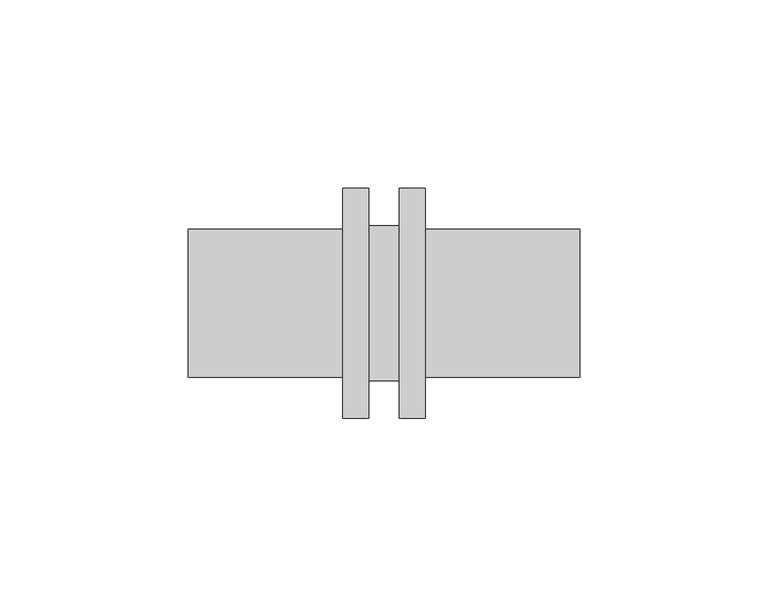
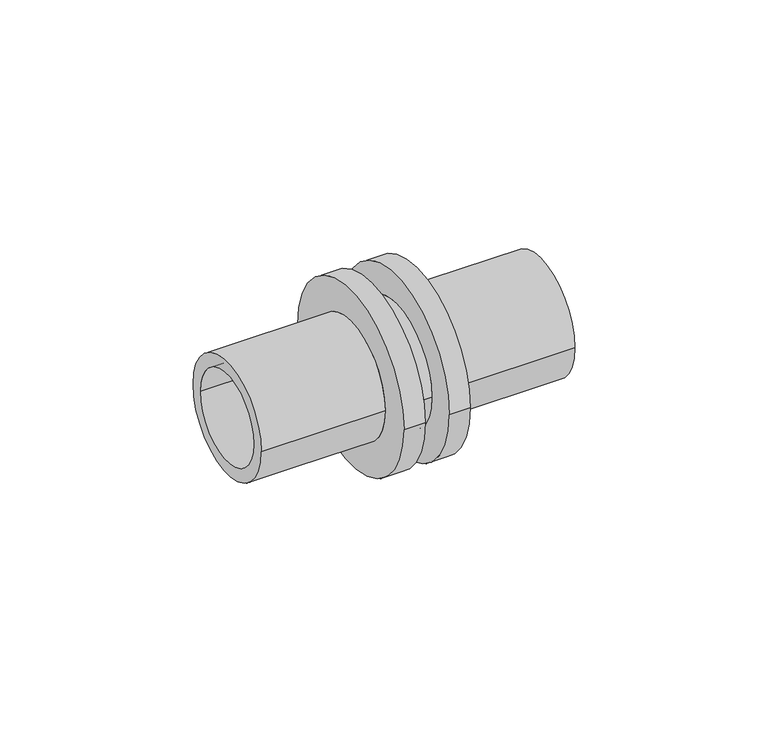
"""IFC4 building model written with IfcOpenShell, lengths in millimetres: pipe fitting geometry, RAUTITAN_Union_RX+ : RTI RX+ U DE."""

from ifc_helpers import new_model, si_unit, frame, origin, place, context, project, spatial, polyline, circle_curve, source, transform, mapped, element, save
from ifc_brep_helpers import plane_surface, cylinder_surface, revolved_surface, advanced_brep


def pipe_fitting_559d0b61(model_context):
    return source(origin(), model_context, "Body", "AdvancedBrep", [
        advanced_brep(
        [(-52.0, 15.25, 0.0), (-52.0, -15.25, 0.0), (52.0, -15.25, 0.0), (52.0, 15.25, 0.0), (-11.0, 19.65, 0.0), (-11.0, -19.65, 0.0), (-52.0, -19.65, 0.0), (-52.0, 19.65, 0.0), (-4.0, 30.55, 0.0), (-4.0, -30.55, 0.0), (-11.0, -30.55, 0.0), (-11.0, 30.55, 0.0), (4.0, 20.55, 0.0), (4.0, -20.55, 0.0), (-4.0, -20.55, 0.0), (-4.0, 20.55, 0.0), (11.0, 30.55, 0.0), (11.0, -30.55, 0.0), (4.0, -30.55, 0.0), (4.0, 30.55, 0.0), (52.0, 19.65, 0.0), (52.0, -19.65, 0.0), (11.0, -19.65, 0.0), (11.0, 19.65, 0.0)],
        [
            (0, 1, circle_curve(frame((-52.0, 0.0, 0.0), z_axis=(-1.0, 0.0, 0.0), x_axis=(0.0, -1.0, 0.0)), 15.25)),
            (1, 2),
            (2, 3, circle_curve(frame((52.0, 0.0, 0.0), z_axis=(1.0, 0.0, 0.0), x_axis=(0.0, -1.0, 0.0)), 15.25)),
            (3, 0),
            (4, 5, circle_curve(frame((-11.0, 0.0, 0.0), z_axis=(-1.0, 0.0, 0.0), x_axis=(0.0, -1.0, 0.0)), 19.65)),
            (5, 6),
            (6, 7, circle_curve(frame((-52.0, 0.0, 0.0), z_axis=(1.0, 0.0, 0.0), x_axis=(0.0, -1.0, 0.0)), 19.65)),
            (7, 4),
            (8, 9, circle_curve(frame((-4.0, 0.0, 0.0), z_axis=(-1.0, 0.0, 0.0), x_axis=(0.0, -1.0, 0.0)), 30.55)),
            (9, 10),
            (10, 11, circle_curve(frame((-11.0, 0.0, 0.0), z_axis=(1.0, 0.0, 0.0), x_axis=(0.0, -1.0, 0.0)), 30.55)),
            (11, 8),
            (12, 13, circle_curve(frame((4.0, 0.0, 0.0), z_axis=(-1.0, 0.0, 0.0), x_axis=(0.0, -1.0, 0.0)), 20.55)),
            (13, 14),
            (14, 15, circle_curve(frame((-4.0, 0.0, 0.0), z_axis=(1.0, 0.0, 0.0), x_axis=(0.0, -1.0, 0.0)), 20.55)),
            (15, 12),
            (16, 17, circle_curve(frame((11.0, 0.0, 0.0), z_axis=(-1.0, 0.0, 0.0), x_axis=(0.0, -1.0, 0.0)), 30.55)),
            (17, 18),
            (18, 19, circle_curve(frame((4.0, 0.0, 0.0), z_axis=(1.0, 0.0, 0.0), x_axis=(0.0, -1.0, 0.0)), 30.55)),
            (19, 16),
            (20, 21, circle_curve(frame((52.0, 0.0, 0.0), z_axis=(-1.0, 0.0, 0.0), x_axis=(0.0, -1.0, 0.0)), 19.65)),
            (21, 22),
            (22, 23, circle_curve(frame((11.0, 0.0, 0.0), z_axis=(1.0, 0.0, 0.0), x_axis=(0.0, -1.0, 0.0)), 19.65)),
            (23, 20),
            (1, 0, circle_curve(frame((-52.0, 0.0, 0.0), z_axis=(-1.0, 0.0, 0.0), x_axis=(0.0, 1.0, 0.0)), 15.25)),
            (3, 2, circle_curve(frame((52.0, 0.0, 0.0), z_axis=(1.0, 0.0, 0.0), x_axis=(0.0, 1.0, 0.0)), 15.25)),
            (6, 7, circle_curve(frame((-52.0, 0.0, 0.0), z_axis=(-1.0, 0.0, 0.0), x_axis=(0.0, 1.0, 0.0)), 19.65)),
            (5, 4, circle_curve(frame((-11.0, 0.0, 0.0), z_axis=(-1.0, 0.0, 0.0), x_axis=(0.0, 1.0, 0.0)), 19.65)),
            (10, 11, circle_curve(frame((-11.0, 0.0, 0.0), z_axis=(-1.0, 0.0, 0.0), x_axis=(0.0, 1.0, 0.0)), 30.55)),
            (9, 8, circle_curve(frame((-4.0, 0.0, 0.0), z_axis=(-1.0, 0.0, 0.0), x_axis=(0.0, 1.0, 0.0)), 30.55)),
            (14, 15, circle_curve(frame((-4.0, 0.0, 0.0), z_axis=(-1.0, 0.0, 0.0), x_axis=(0.0, 1.0, 0.0)), 20.55)),
            (13, 12, circle_curve(frame((4.0, 0.0, 0.0), z_axis=(-1.0, 0.0, 0.0), x_axis=(0.0, 1.0, 0.0)), 20.55)),
            (18, 19, circle_curve(frame((4.0, 0.0, 0.0), z_axis=(-1.0, 0.0, 0.0), x_axis=(0.0, 1.0, 0.0)), 30.55)),
            (17, 16, circle_curve(frame((11.0, 0.0, 0.0), z_axis=(-1.0, 0.0, 0.0), x_axis=(0.0, 1.0, 0.0)), 30.55)),
            (22, 23, circle_curve(frame((11.0, 0.0, 0.0), z_axis=(-1.0, 0.0, 0.0), x_axis=(0.0, 1.0, 0.0)), 19.65)),
            (21, 20, circle_curve(frame((52.0, 0.0, 0.0), z_axis=(-1.0, 0.0, 0.0), x_axis=(0.0, 1.0, 0.0)), 19.65)),
        ],
        [
            revolved_surface(polyline([(52.0, -15.25, 0.0), (-52.0, -15.25, 0.0)]), (0.0, 0.0, 0.0), (1.0, 0.0, 0.0)),
            cylinder_surface(frame((0.0, 0.0, 0.0), z_axis=(1.0, 0.0, 0.0), x_axis=(0.0, -1.0, 0.0)), 19.65),
            cylinder_surface(frame((0.0, 0.0, 0.0), z_axis=(1.0, 0.0, 0.0), x_axis=(0.0, -1.0, 0.0)), 30.55),
            cylinder_surface(frame((0.0, 0.0, 0.0), z_axis=(1.0, 0.0, 0.0), x_axis=(0.0, -1.0, 0.0)), 20.55),
            revolved_surface(polyline([(52.0, 15.25, 0.0), (-52.0, 15.25, 0.0)]), (0.0, 0.0, 0.0), (1.0, 0.0, 0.0)),
            plane_surface(frame((-52.0, 0.0, 0.0), z_axis=(-1.0, 0.0, 0.0), x_axis=(0.0, 1.0, 0.0))),
            cylinder_surface(frame((0.0, 0.0, 0.0), z_axis=(1.0, 0.0, 0.0), x_axis=(0.0, 1.0, 0.0)), 19.65),
            plane_surface(frame((-11.0, 0.0, 0.0), z_axis=(-1.0, 0.0, 0.0), x_axis=(0.0, 1.0, 0.0))),
            cylinder_surface(frame((0.0, 0.0, 0.0), z_axis=(1.0, 0.0, 0.0), x_axis=(0.0, 1.0, 0.0)), 30.55),
            plane_surface(frame((-4.0, 0.0, 0.0), z_axis=(1.0, 0.0, 0.0), x_axis=(0.0, 1.0, 0.0))),
            cylinder_surface(frame((0.0, 0.0, 0.0), z_axis=(1.0, 0.0, 0.0), x_axis=(0.0, 1.0, 0.0)), 20.55),
            plane_surface(frame((4.0, 0.0, 0.0), z_axis=(-1.0, 0.0, 0.0), x_axis=(0.0, 1.0, 0.0))),
            plane_surface(frame((11.0, 0.0, 0.0), z_axis=(1.0, 0.0, 0.0), x_axis=(0.0, 1.0, 0.0))),
            plane_surface(frame((52.0, 0.0, 0.0), z_axis=(1.0, 0.0, 0.0), x_axis=(0.0, 1.0, 0.0))),
        ],
        [
            (0, [[1, 2, 3, 4]]),
            (1, [[5, 6, 7, 8]]),
            (2, [[9, 10, 11, 12]]),
            (3, [[13, 14, 15, 16]]),
            (2, [[17, 18, 19, 20]]),
            (1, [[21, 22, 23, 24]]),
            (4, [[25, -4, 26, -2]]),
            (5, [[27, -7], [-25, -1]]),
            (6, [[28, -8, -27, -6]]),
            (7, [[29, -11], [-28, -5]]),
            (8, [[30, -12, -29, -10]]),
            (9, [[-30, -9], [31, -15]]),
            (10, [[32, -16, -31, -14]]),
            (11, [[33, -19], [-32, -13]]),
            (8, [[34, -20, -33, -18]]),
            (12, [[-34, -17], [35, -23]]),
            (6, [[36, -24, -35, -22]]),
            (13, [[-36, -21], [-26, -3]]),
        ],
    ),
    ])


if __name__ == "__main__":
    model = new_model("IFC4")
    model_context = context("Model", 3, world=origin())
    ifc_project = project(units=[si_unit("LENGTHUNIT", "METRE", prefix="MILLI")], contexts=[model_context])
    site = spatial("IfcSite", under=ifc_project)
    building = spatial("IfcBuilding", under=site)
    placement = place(None, origin())
    pipe_fitting_shape = pipe_fitting_559d0b61(model_context)
    element("IfcPipeFitting", 1, ObjectType="RAUTITAN_Union_RX+ : RTI RX+ U DE", at=placement, inside=building, context=model_context, shape_type="MappedRepresentation", body=[
        mapped(pipe_fitting_shape, transform((0.0, 0.0, 0.0), x_axis=(1.0, 0.0, 0.0), y_axis=(0.0, 1.0, 0.0), z_axis=(0.0, 0.0, 1.0))),
    ])
    save(model, "model.ifc")
